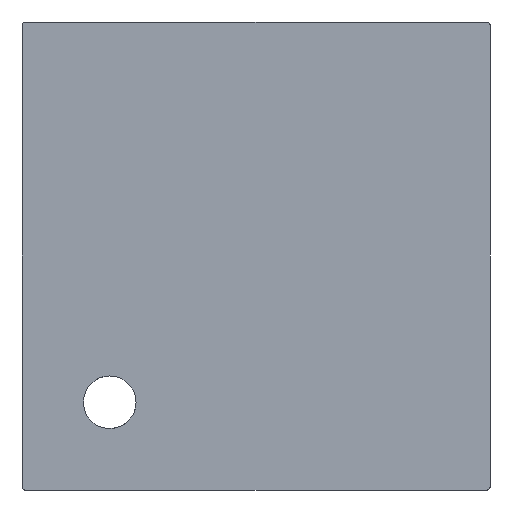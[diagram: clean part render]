
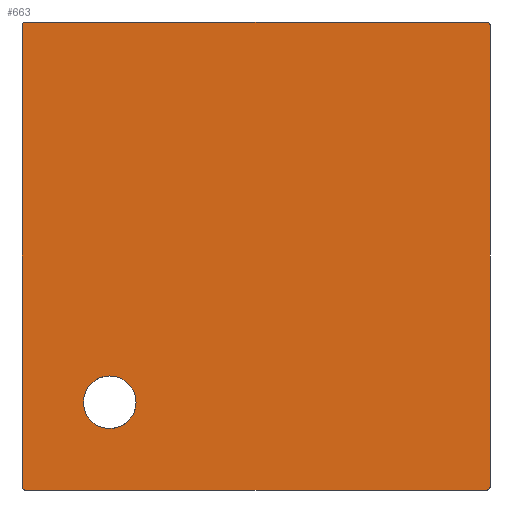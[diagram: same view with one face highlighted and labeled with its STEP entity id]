
A CAD part, front view. The second image highlights one B-rep face of the part: STEP entity #663.
In plain terms, the highlighted planar face has unit normal (0, -1, 0).
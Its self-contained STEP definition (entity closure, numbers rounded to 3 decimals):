
#28=FACE_BOUND('',#102,.T.);
#32=PLANE('',#729);
#54=FACE_OUTER_BOUND('',#101,.T.);
#101=EDGE_LOOP('',(#455,#456,#457,#458,#459,#460,#461,#462));
#102=EDGE_LOOP('',(#463));
#151=LINE('',#1063,#197);
#153=LINE('',#1067,#199);
#154=LINE('',#1071,#200);
#155=LINE('',#1075,#201);
#197=VECTOR('',#835,10.);
#199=VECTOR('',#839,10.);
#200=VECTOR('',#842,10.);
#201=VECTOR('',#845,10.);
#239=CIRCLE('',#721,5.);
#244=CIRCLE('',#730,5.);
#245=CIRCLE('',#731,5.);
#246=CIRCLE('',#732,5.);
#247=CIRCLE('',#733,45.);
#286=VERTEX_POINT('',#1043);
#287=VERTEX_POINT('',#1044);
#293=VERTEX_POINT('',#1062);
#294=VERTEX_POINT('',#1066);
#295=VERTEX_POINT('',#1068);
#296=VERTEX_POINT('',#1070);
#297=VERTEX_POINT('',#1072);
#298=VERTEX_POINT('',#1074);
#299=VERTEX_POINT('',#1077);
#341=EDGE_CURVE('',#286,#287,#239,.T.);
#350=EDGE_CURVE('',#293,#287,#151,.T.);
#352=EDGE_CURVE('',#286,#294,#153,.T.);
#353=EDGE_CURVE('',#295,#294,#244,.T.);
#354=EDGE_CURVE('',#295,#296,#154,.T.);
#355=EDGE_CURVE('',#297,#296,#245,.T.);
#356=EDGE_CURVE('',#297,#298,#155,.T.);
#357=EDGE_CURVE('',#293,#298,#246,.T.);
#358=EDGE_CURVE('',#299,#299,#247,.T.);
#455=ORIENTED_EDGE('',*,*,#341,.F.);
#456=ORIENTED_EDGE('',*,*,#352,.T.);
#457=ORIENTED_EDGE('',*,*,#353,.F.);
#458=ORIENTED_EDGE('',*,*,#354,.T.);
#459=ORIENTED_EDGE('',*,*,#355,.F.);
#460=ORIENTED_EDGE('',*,*,#356,.T.);
#461=ORIENTED_EDGE('',*,*,#357,.F.);
#462=ORIENTED_EDGE('',*,*,#350,.T.);
#463=ORIENTED_EDGE('',*,*,#358,.T.);
#663=ADVANCED_FACE('',(#54,#28),#32,.F.);
#721=AXIS2_PLACEMENT_3D('',#1045,#815,#816);
#729=AXIS2_PLACEMENT_3D('',#1065,#837,#838);
#730=AXIS2_PLACEMENT_3D('',#1069,#840,#841);
#731=AXIS2_PLACEMENT_3D('',#1073,#843,#844);
#732=AXIS2_PLACEMENT_3D('',#1076,#846,#847);
#733=AXIS2_PLACEMENT_3D('',#1078,#848,#849);
#815=DIRECTION('center_axis',(0.,1.,0.));
#816=DIRECTION('ref_axis',(0.707,0.,-0.707));
#835=DIRECTION('',(1.,0.,0.));
#837=DIRECTION('center_axis',(0.,1.,0.));
#838=DIRECTION('ref_axis',(1.,0.,0.));
#839=DIRECTION('',(0.,0.,1.));
#840=DIRECTION('center_axis',(0.,1.,0.));
#841=DIRECTION('ref_axis',(0.707,0.,0.707));
#842=DIRECTION('',(-1.,0.,0.));
#843=DIRECTION('center_axis',(0.,1.,0.));
#844=DIRECTION('ref_axis',(-0.707,0.,0.707));
#845=DIRECTION('',(0.,0.,-1.));
#846=DIRECTION('center_axis',(0.,1.,0.));
#847=DIRECTION('ref_axis',(-0.707,0.,-0.707));
#848=DIRECTION('center_axis',(0.,1.,0.));
#849=DIRECTION('ref_axis',(-1.,0.,0.));
#1043=CARTESIAN_POINT('',(400.,0.,-395.));
#1044=CARTESIAN_POINT('',(395.,0.,-400.));
#1045=CARTESIAN_POINT('Origin',(395.,0.,-395.));
#1062=CARTESIAN_POINT('',(-395.,0.,-400.));
#1063=CARTESIAN_POINT('',(-400.,0.,-400.));
#1065=CARTESIAN_POINT('Origin',(0.,0.,0.));
#1066=CARTESIAN_POINT('',(400.,0.,395.));
#1067=CARTESIAN_POINT('',(400.,0.,-400.));
#1068=CARTESIAN_POINT('',(395.,0.,400.));
#1069=CARTESIAN_POINT('Origin',(395.,0.,395.));
#1070=CARTESIAN_POINT('',(-395.,0.,400.));
#1071=CARTESIAN_POINT('',(400.,0.,400.));
#1072=CARTESIAN_POINT('',(-400.,0.,395.));
#1073=CARTESIAN_POINT('Origin',(-395.,0.,395.));
#1074=CARTESIAN_POINT('',(-400.,0.,-395.));
#1075=CARTESIAN_POINT('',(-400.,0.,400.));
#1076=CARTESIAN_POINT('Origin',(-395.,0.,-395.));
#1077=CARTESIAN_POINT('',(-205.,0.,-250.));
#1078=CARTESIAN_POINT('Origin',(-250.,0.,-250.));
